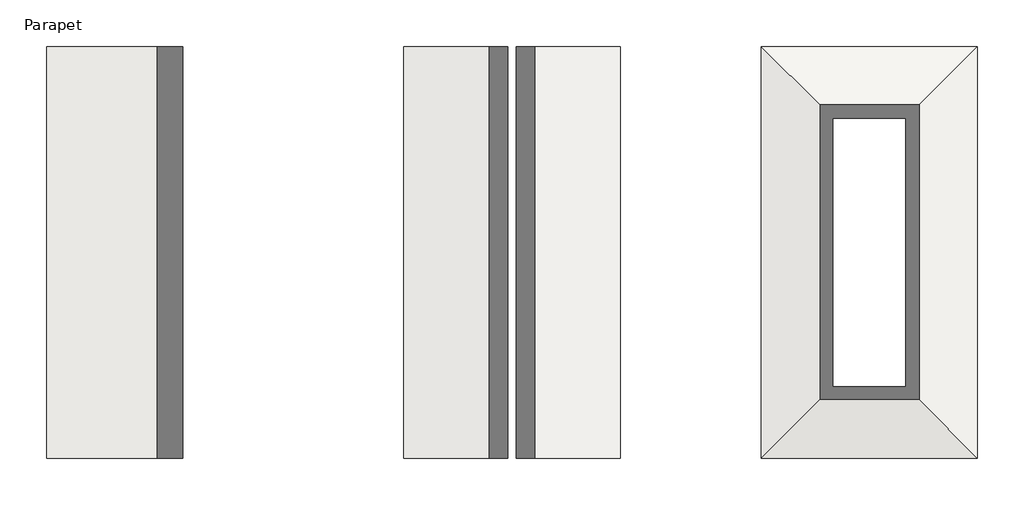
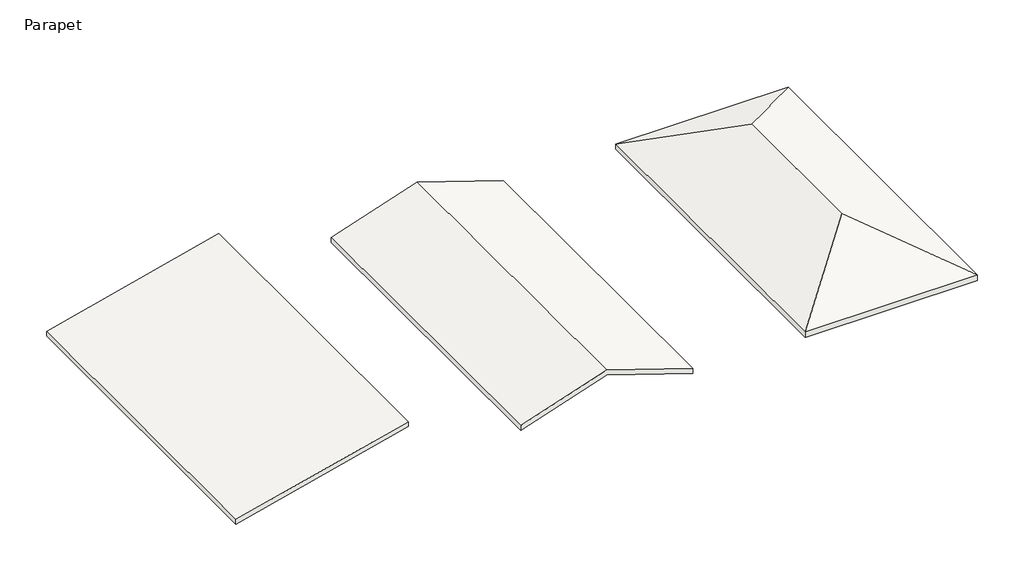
# One storey: 3 roofs.
"""IFC4 building model written with IfcOpenShell, lengths in millimetres."""

from ifc_helpers import new_model, si_unit, frame, origin, place, context, project, spatial, polyline, outline, extrude, faceted_brep, element, save

model = new_model("IFC4")

# Units and contexts
model_context = context("Model", 3, world=origin())
ifc_project = project(units=[si_unit("LENGTHUNIT", "METRE", prefix="MILLI")], contexts=[model_context])

# Site, building, storey
site = spatial("IfcSite", under=ifc_project)
building = spatial("IfcBuilding", under=site)
storey = spatial("IfcBuildingStorey", under=building, Name="Parapet", Elevation=4673.6)

# Roofs
placement = place(None, origin())
element("IfcRoof", 1, ObjectType="Generic - 9\"", at=placement, inside=storey, context=model_context, shape_type="SweptSolid", body=[
    extrude(outline(polyline([(6861.8604865, -20714.1444089), (4833.0354865, -28829.4444089), (4597.4, -28829.4444089), (6626.225, -20714.1444089), (6861.8604865, -20714.1444089)])), frame((0.0, -4731.6148477, 0.0), z_axis=(0.0, 1.0, 0.0), x_axis=(0.0, 0.0, 1.0)), (0.0, 0.0, 1.0), 15455.9),
])
element("IfcRoof", 2, ObjectType="Generic - 9\"", at=placement, inside=storey, context=model_context, shape_type="SweptSolid", body=[
    extrude(outline(polyline([(4812.9655577, -7302.9444089), (6165.5155577, -11360.5944089), (4812.9655577, -15418.2444089), (4572.0, -15418.2444089), (5924.55, -11360.5944089), (4572.0, -7302.9444089), (4812.9655577, -7302.9444089)])), frame((0.0, -4731.6148477, 0.0), z_axis=(0.0, 1.0, 0.0), x_axis=(0.0, 0.0, 1.0)), (0.0, 0.0, 1.0), 15455.9),
])
element("IfcRoof", 3, ObjectType="Generic - 9\"", at=placement, inside=storey, context=model_context, shape_type="Brep", body=[
    faceted_brep([(2050.6055911, 6666.6351523, 6550.025), (6108.2555911, 10724.2851523, 4521.2), (6108.2555911, -4731.6148477, 4521.2), (2050.6055911, -673.9648477, 6550.025), (-2007.0444089, 10724.2851523, 4521.2), (-2007.0444089, -4731.6148477, 4521.2), (6108.2555911, 10724.2851523, 4776.7825698), (2050.6055911, 6666.6351523, 6805.6075698), (2050.6055911, -673.9648477, 6805.6075698), (6108.2555911, -4731.6148477, 4776.7825698), (-2007.0444089, 10724.2851523, 4776.7825698), (-2007.0444089, -4731.6148477, 4776.7825698)], [[[0, 1, 2, 3]], [[1, 0, 4]], [[5, 3, 2]], [[4, 0, 3, 5]], [[6, 7, 8, 9]], [[6, 10, 7]], [[11, 9, 8]], [[10, 11, 8, 7]], [[4, 10, 6, 1]], [[5, 11, 10, 4]], [[2, 9, 11, 5]], [[1, 6, 9, 2]]]),
])

save(model, "model.ifc")
